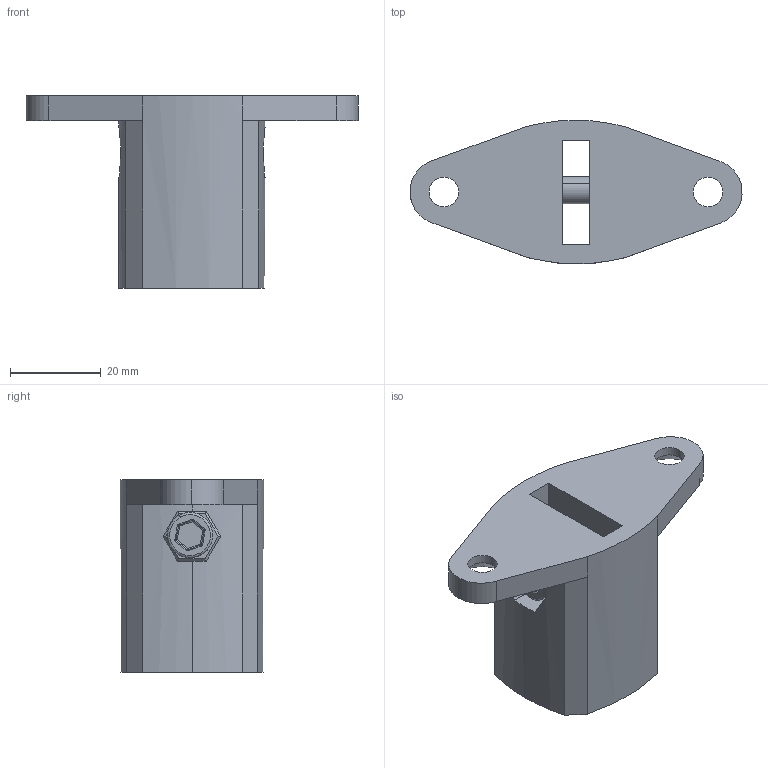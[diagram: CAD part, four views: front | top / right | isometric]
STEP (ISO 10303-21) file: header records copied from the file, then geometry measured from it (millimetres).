
FILE_DESCRIPTION (( 'STEP AP203' ), '1' );
FILE_NAME ('1097.STEP', '2016-05-29T11:03:12', ( 'RosInstal-MKM' ), ( '' ), 'SwSTEP 2.0', 'SolidWorks 2014', '' );
FILE_SCHEMA (( 'CONFIG_CONTROL_DESIGN' ));
Length unit declared in the file: millimetre
Products named in the file (4): 鎔艜2; 1097; 櫻蠉錪2; ãàéêà2
Assembly tree (3 placements, depth 2):
  1097
    櫻蠉錪2
    ãàéêà2
    鎔艜2
Bounding box: 73.19 x 31.64 x 42.5 mm (x, y, z)
Volume: 25084.1 mm3; surface area: 13245.1 mm2
Topology: 3 solids, 3 shells, 136 faces, 336 edges, 202 vertices
Faces by surface type: plane 67, cylinder 46, torus 11, cone 6, sphere 6
Entity records: 4383 total; most frequent: DIRECTION 729, CARTESIAN_POINT 698, ORIENTED_EDGE 660, EDGE_CURVE 330, AXIS2_PLACEMENT_3D 265, VERTEX_POINT 202, VECTOR 199, LINE 199
